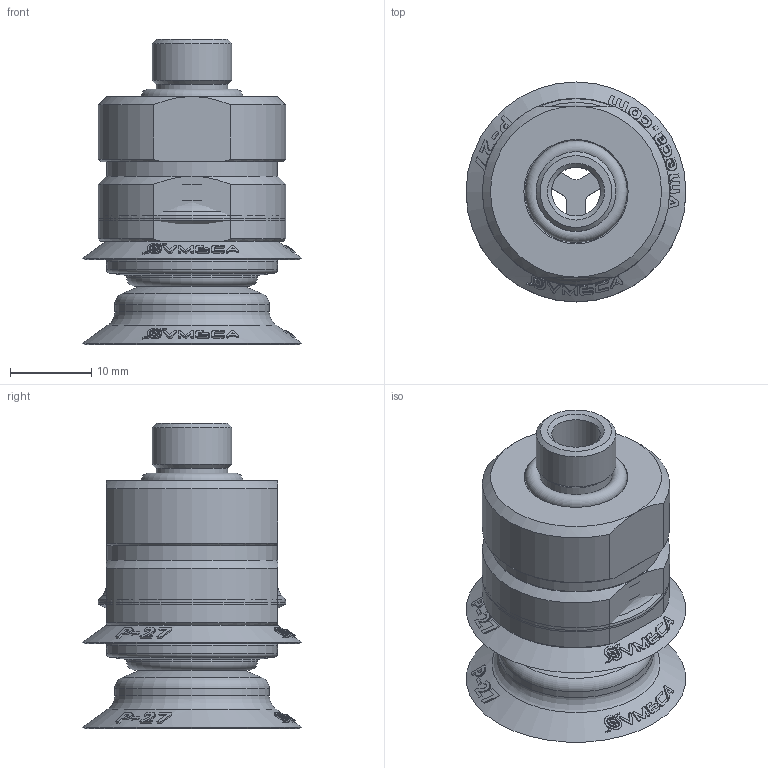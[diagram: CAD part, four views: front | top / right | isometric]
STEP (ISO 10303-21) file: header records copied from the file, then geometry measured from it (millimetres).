
FILE_DESCRIPTION( ( 'Unknown' ), '1' );
FILE_NAME( 'C:/Documents and Settings/Administrator/官帕 拳搁/Magic Cup (Dim)/B1.5/P TYPE/B1.5-20/B1.5-20-P27-N6-D-F2-18M.stp', 'Unknown', ( 'Unknown' ), ( 'Unknown' ), 'XStep 1.0', 'Unknown', ' ' );
FILE_SCHEMA( ( 'automotive_design' ) );
Length unit declared in the file: millimetre
Products named in the file (8): Assem1; Assem2; Assem3; 赤20 STOPPER ; P27; B1.5-20(DIM); 20-18M(DIM); 18M-Oring(DIM)
Bounding box: 27 x 27 x 37.45 mm (x, y, z)
Volume: 21217.7 mm3; surface area: 24651 mm2
Topology: 15 solids, 15 shells, 1734 faces, 4485 edges, 2913 vertices
Faces by surface type: bspline 543, plane 459, cone 324, torus 231, cylinder 177
Full cylindrical faces by diameter (mm): 6 x3, 8.8 x3, 9.8 x6, 10 x3, 11 x3, 11.9 x6, 12.4 x3, 13 x3, 13.4 x6, 14.4 x3, 15 x9, 15.7 x6, 16 x3, 17 x6, 17.5 x3, 17.527 x3, 19 x3, 19.8 x3, 21 x6, 23 x3
Entity records: 22149 total; most frequent: CARTESIAN_POINT 9849, ORIENTED_EDGE 2798, DIRECTION 1736, EDGE_CURVE 1399, VERTEX_POINT 962, B_SPLINE_CURVE_WITH_KNOTS 841, AXIS2_PLACEMENT_3D 773, EDGE_LOOP 721
